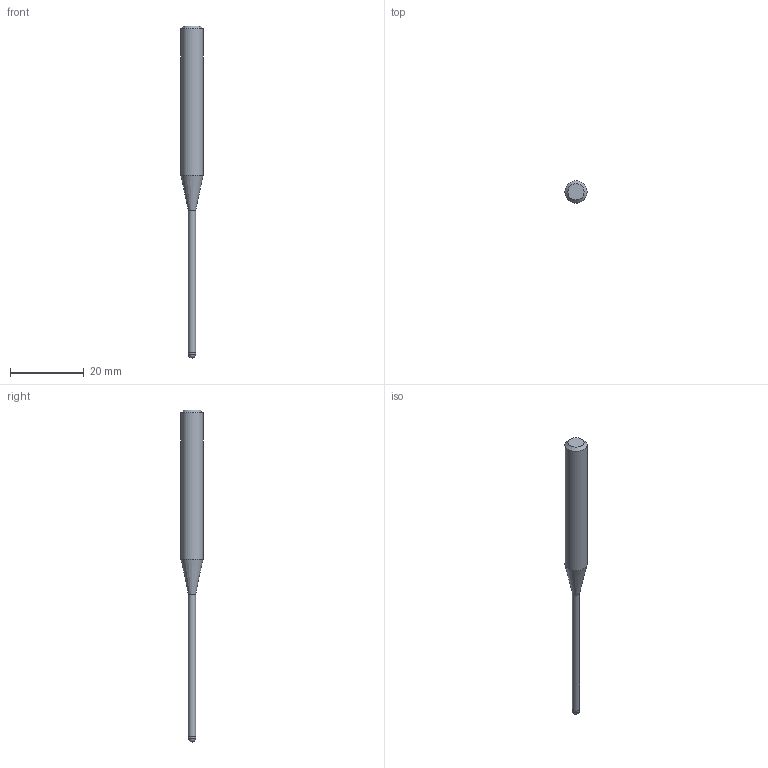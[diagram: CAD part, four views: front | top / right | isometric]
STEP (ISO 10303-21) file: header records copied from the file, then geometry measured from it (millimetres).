
FILE_DESCRIPTION((''),'2;1');
FILE_NAME('C:\Users\nsx150\AppData\Local\Temp\Mastercam 2021\ARV7HD45SN\TEMP.step','2023-06-13T16:38:04',(''),(''),'STEP Write','Mastercam 2021 ... CNC Software, Inc.','');
FILE_SCHEMA(('AUTOMOTIVE_DESIGN'));
Length unit declared in the file: millimetre
Products named in the file (1): None
Bounding box: 6 x 6 x 90 mm (x, y, z)
Volume: 1384.2 mm3; surface area: 1153 mm2
Topology: 2 solids, 2 shells, 9 faces, 14 edges, 8 vertices
Faces by surface type: plane 3, cylinder 3, cone 2, sphere 1
Full cylindrical faces by diameter (mm): 1.94 x1, 2 x1, 6 x1
Entity records: 211 total; most frequent: DIRECTION 36, CARTESIAN_POINT 25, AXIS2_PLACEMENT_3D 18, ORIENTED_EDGE 14, EDGE_LOOP 14, STYLED_ITEM 12, ADVANCED_FACE 9, FACE_BOUND 8
